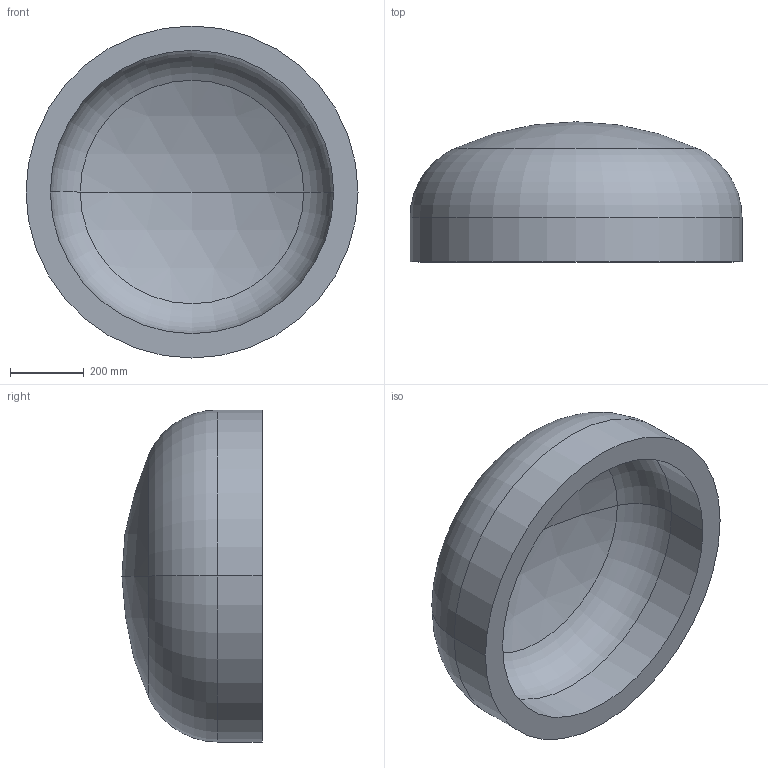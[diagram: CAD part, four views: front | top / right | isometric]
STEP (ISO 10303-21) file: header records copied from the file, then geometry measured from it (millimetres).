
FILE_DESCRIPTION (( 'STEP AP203' ), '1' );
FILE_NAME ('DIN 28013 Korbbogenform_-_Boden DIN 28013 - 900 x 120 - I - s=66.step', '2016-07-01T08:34:57', ( '' ), ( '' ), 'SwSTEP 2.0', 'SolidWorks 2013', '' );
FILE_SCHEMA (( 'CONFIG_CONTROL_DESIGN' ));
Length unit declared in the file: millimetre
Products named in the file (1): DIN 28013 Korbbogenform_-_Boden DIN 28013 - 900 x 120 - I - s=66
Bounding box: 900 x 379.82 x 900 mm (x, y, z)
Volume: 73876353.4 mm3; surface area: 2420726 mm2
Topology: 1 solids, 1 shells, 13 faces, 24 edges, 14 vertices
Faces by surface type: torus 4, cylinder 4, sphere 4, plane 1
Entity records: 407 total; most frequent: DIRECTION 72, CARTESIAN_POINT 52, ORIENTED_EDGE 48, AXIS2_PLACEMENT_3D 34, EDGE_CURVE 24, CIRCLE 20, VERTEX_POINT 14, EDGE_LOOP 14
